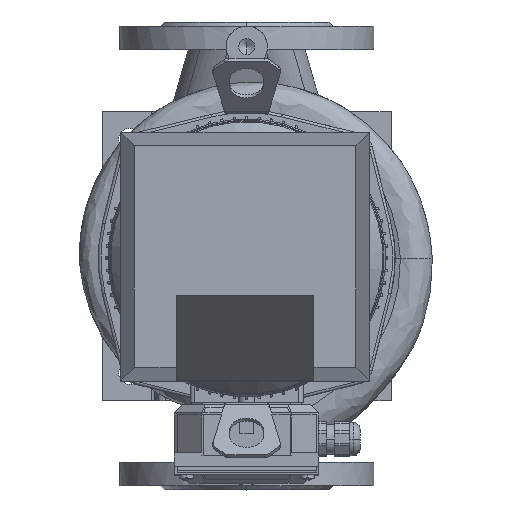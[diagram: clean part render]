
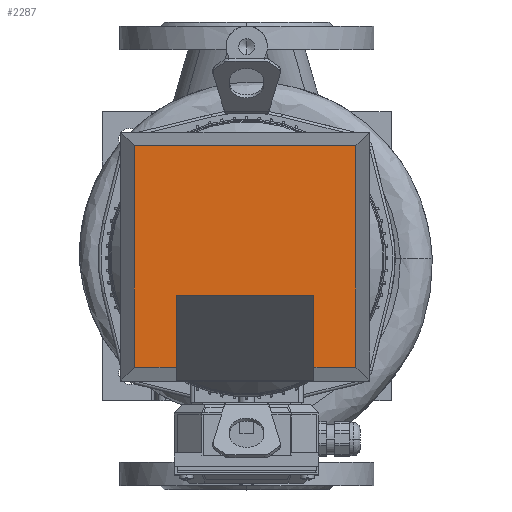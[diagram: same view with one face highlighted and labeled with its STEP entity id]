
A CAD part, top view. The second image highlights one B-rep face of the part: STEP entity #2287.
In plain terms, the highlighted planar face has unit normal (0, 0, 1) as drawn and (0, 1, 0) by its records, which use the part's own axes.
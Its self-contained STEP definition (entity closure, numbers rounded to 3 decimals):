
#2287=ADVANCED_FACE('',(#4231),#4232,.T.);
#2297=EDGE_CURVE('',#4244,#4247,#4248,.T.);
#4231=FACE_OUTER_BOUND('',#10588,.T.);
#4232=PLANE('',#10589);
#4244=VERTEX_POINT('',#10602);
#4247=VERTEX_POINT('',#10607);
#4248=LINE('',#10608,#10609);
#10588=EDGE_LOOP('',(#18351,#18352,#18353,#18354,#18355,#18356,#18357,#18358));
#10589=AXIS2_PLACEMENT_3D('',#18359,#18360,#18361);
#10602=CARTESIAN_POINT('',(50.0,114.0,118.64));
#10607=CARTESIAN_POINT('',(50.0,114.0,171.0));
#10608=CARTESIAN_POINT('',(50.0,114.0,90.179));
#10609=VECTOR('',#18387,1.0);
#18351=ORIENTED_EDGE('',*,*,#2297,.T.);
#18352=ORIENTED_EDGE('',*,*,#31057,.F.);
#18353=ORIENTED_EDGE('',*,*,#31065,.F.);
#18354=ORIENTED_EDGE('',*,*,#31067,.F.);
#18355=ORIENTED_EDGE('',*,*,#31059,.F.);
#18356=ORIENTED_EDGE('',*,*,#31053,.F.);
#18357=ORIENTED_EDGE('',*,*,#31046,.T.);
#18358=ORIENTED_EDGE('',*,*,#31049,.T.);
#18359=CARTESIAN_POINT('',(0.0,114.0,0.0));
#18360=DIRECTION('',(0.0,1.0,-0.0));
#18361=DIRECTION('',(-1.0,0.0,0.0));
#18387=DIRECTION('',(0.0,0.0,1.0));
#31046=EDGE_CURVE('',#49364,#49366,#49368,.T.);
#31049=EDGE_CURVE('',#49366,#4244,#49371,.T.);
#31053=EDGE_CURVE('',#49364,#49375,#49376,.T.);
#31057=EDGE_CURVE('',#49381,#4247,#49383,.T.);
#31059=EDGE_CURVE('',#49375,#49385,#49386,.T.);
#31065=EDGE_CURVE('',#49391,#49381,#49393,.T.);
#31067=EDGE_CURVE('',#49385,#49391,#49395,.T.);
#49364=VERTEX_POINT('',#58450);
#49366=VERTEX_POINT('',#58453);
#49368=LINE('',#58456,#58457);
#49371=LINE('',#58461,#58462);
#49375=VERTEX_POINT('',#58467);
#49376=LINE('',#58468,#58469);
#49381=VERTEX_POINT('',#58476);
#49383=LINE('',#58479,#58480);
#49385=VERTEX_POINT('',#58482);
#49386=LINE('',#58483,#58484);
#49391=VERTEX_POINT('',#58492);
#49393=LINE('',#58495,#58496);
#49395=LINE('',#58498,#58499);
#58450=CARTESIAN_POINT('',(-50.0,114.0,171.0));
#58453=CARTESIAN_POINT('',(-50.0,114.0,118.64));
#58456=CARTESIAN_POINT('',(-50.0,114.0,90.179));
#58457=VECTOR('',#68316,1.0);
#58461=CARTESIAN_POINT('',(25.0,114.0,118.64));
#58462=VECTOR('',#68318,1.0);
#58467=CARTESIAN_POINT('',(-80.5,114.0,171.0));
#58468=CARTESIAN_POINT('',(45.25,114.0,171.0));
#58469=VECTOR('',#68320,1.0);
#58476=CARTESIAN_POINT('',(80.5,114.0,171.0));
#58479=CARTESIAN_POINT('',(45.25,114.0,171.0));
#58480=VECTOR('',#68324,1.0);
#58482=CARTESIAN_POINT('',(-80.5,114.0,10.0));
#58483=CARTESIAN_POINT('',(-80.5,114.0,0.0));
#58484=VECTOR('',#68325,1.0);
#58492=CARTESIAN_POINT('',(80.5,114.0,10.0));
#58495=CARTESIAN_POINT('',(80.5,114.0,0.0));
#58496=VECTOR('',#68330,1.0);
#58498=CARTESIAN_POINT('',(45.25,114.0,10.0));
#58499=VECTOR('',#68331,1.0);
#68316=DIRECTION('',(-0.0,0.0,-1.0));
#68318=DIRECTION('',(1.0,-0.0,0.0));
#68320=DIRECTION('',(-1.0,0.0,-0.0));
#68324=DIRECTION('',(-1.0,0.0,-0.0));
#68325=DIRECTION('',(-0.0,-0.0,-1.0));
#68330=DIRECTION('',(-0.0,0.0,1.0));
#68331=DIRECTION('',(1.0,-0.0,-0.0));
